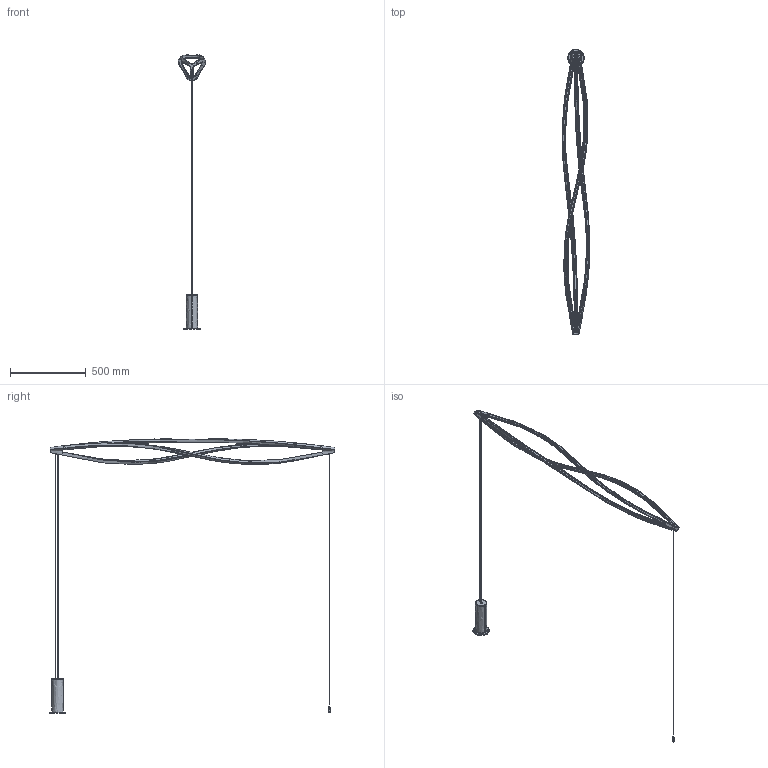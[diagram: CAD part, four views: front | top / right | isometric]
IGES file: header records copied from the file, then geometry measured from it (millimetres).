
Start section: SolidWorks IGES file using analytic representation for surfaces
Global section: file name: C:\Users\dtentori\Desktop\3d sito usa\ITW Pendant H cover oplate.IGS; native system: SolidWorks 2016; preprocessor: SolidWorks 2016; author: dtentori; date: 170728.113918; units: millimetre
Bounding box: 180.67 x 1882.75 x 1808.71 mm (x, y, z)
Surface area: 1146767.3 mm2 (no closed solid volume)
Topology: 0 solids, 0 shells, 1592 faces, 15984 edges, 15968 vertices
Faces by surface type: bspline 1233, revolution 359
